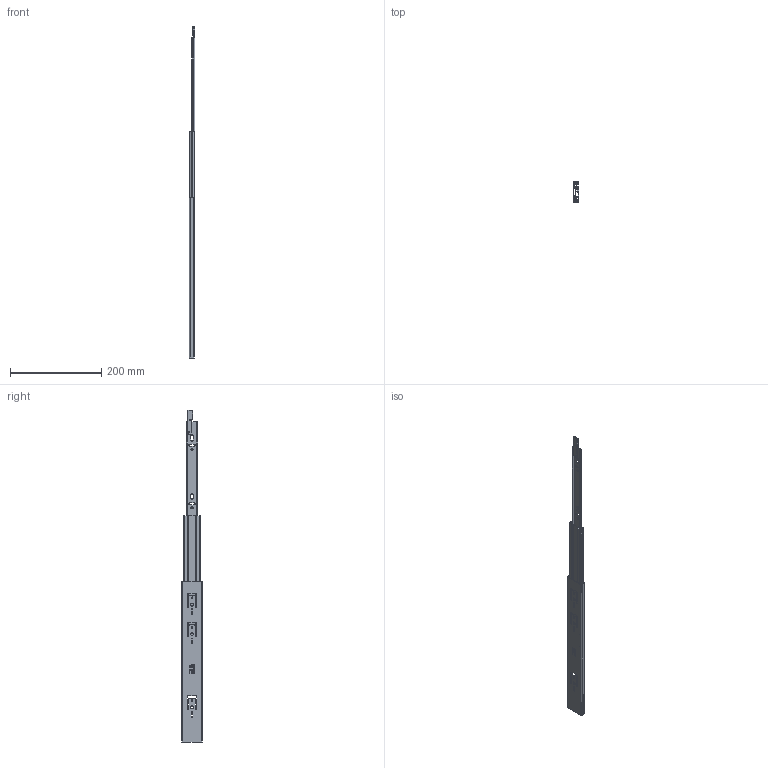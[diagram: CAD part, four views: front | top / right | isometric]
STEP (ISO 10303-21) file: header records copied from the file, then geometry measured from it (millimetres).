
FILE_DESCRIPTION (( 'STEP AP214' ), '1' );
FILE_NAME ('DSCHLD350MML-OPEN.STEP', '2018-11-28T08:36:28', ( '' ), ( '' ), 'SwSTEP 2.0', 'SolidWorks 2017', '' );
FILE_SCHEMA (( 'AUTOMOTIVE_DESIGN' ));
Length unit declared in the file: millimetre
Products named in the file (5): DSCHLDL-2_350; DSCHLDL-4; DSCHLDL-1_350; DSCHLD350MML-OPEN; DSCHLDL-3_350
Assembly tree (4 placements, depth 2):
  DSCHLD350MML-OPEN
    DSCHLDL-3_350
    DSCHLDL-2_350
    DSCHLDL-1_350
    DSCHLDL-4
Bounding box: 12.71 x 45.5 x 726.1 mm (x, y, z)
Volume: 65538 mm3; surface area: 107540.8 mm2
Topology: 4 solids, 4 shells, 834 faces, 2264 edges, 1500 vertices
Faces by surface type: plane 478, bspline 237, cylinder 111, torus 4, sphere 4
Entity records: 28196 total; most frequent: CARTESIAN_POINT 8030, ORIENTED_EDGE 4520, DIRECTION 3222, EDGE_CURVE 2260, VECTOR 1558, LINE 1558, VERTEX_POINT 1500, EDGE_LOOP 946
